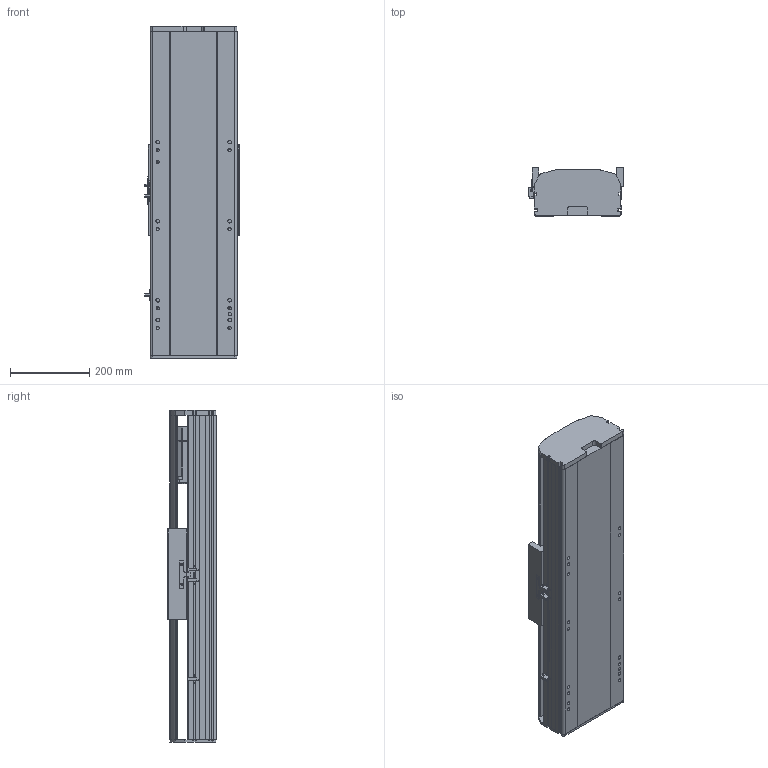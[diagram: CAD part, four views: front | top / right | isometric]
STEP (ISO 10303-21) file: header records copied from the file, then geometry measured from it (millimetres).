
FILE_DESCRIPTION (( 'STEP AP214' ), '1' );
FILE_NAME ('RTH22-XX-250-B-M75-C4.STEP', '2025-10-24T10:27:03', ( 'Microsoft' ), ( 'Microsoft' ), 'SwSTEP 2.0', 'SolidWorks 2018', '' );
FILE_SCHEMA (( 'AUTOMOTIVE_DESIGN' ));
Length unit declared in the file: millimetre
Products named in the file (9): N_RTH22-E-004-SFS25賑釱^RTH22-XX-XX-B-M75-C4; N_OMRON EE-SX672 传感器^RTH22-XX-XX-B-M75-C4; N_RTH22-GY-013外置感应片^RTH22-XX-XX-B-M75-C4; RTH22-XX-250-B-M75-C4; N_750W萇儂^RTH22-XX-XX-B-M75-C4; N_RTH22-B-008萇儂啣^RTH22-XX-XX-B-M75-C4; N_RTH22-B-011菁釱^RTH22-XX-XX-B-M75-C4; N_RTH22-B-007奻裔^RTH22-XX-XX-B-M75-C4; N_RTH22-GY-001耜裔^RTH22-XX-XX-B-M75-C4
Assembly tree (10 placements, depth 2):
  RTH22-XX-250-B-M75-C4
    N_RTH22-B-011菁釱^RTH22-XX-XX-B-M75-C4
    N_RTH22-GY-001耜裔^RTH22-XX-XX-B-M75-C4
    N_750W萇儂^RTH22-XX-XX-B-M75-C4
    N_RTH22-B-008萇儂啣^RTH22-XX-XX-B-M75-C4
    N_RTH22-B-007奻裔^RTH22-XX-XX-B-M75-C4
    N_OMRON EE-SX672 传感器^RTH22-XX-XX-B-M75-C4  x3
    N_RTH22-GY-013外置感应片^RTH22-XX-XX-B-M75-C4
    N_RTH22-E-004-SFS25賑釱^RTH22-XX-XX-B-M75-C4
Bounding box: 238.5 x 122 x 840 mm (x, y, z)
Volume: 12718782.8 mm3; surface area: 1346971.1 mm2
Topology: 10 solids, 10 shells, 1479 faces, 4050 edges, 2623 vertices
Faces by surface type: plane 748, cylinder 406, bspline 279, cone 46
Entity records: 36117 total; most frequent: CARTESIAN_POINT 11401, ORIENTED_EDGE 5100, DIRECTION 4728, EDGE_CURVE 2550, VERTEX_POINT 1659, LINE 1596, VECTOR 1596, AXIS2_PLACEMENT_3D 1566
